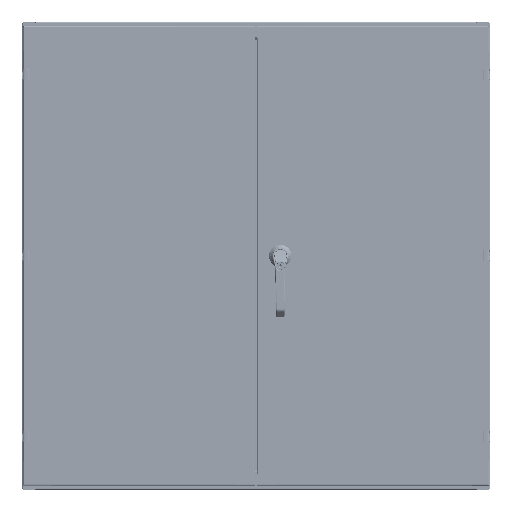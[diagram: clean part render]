
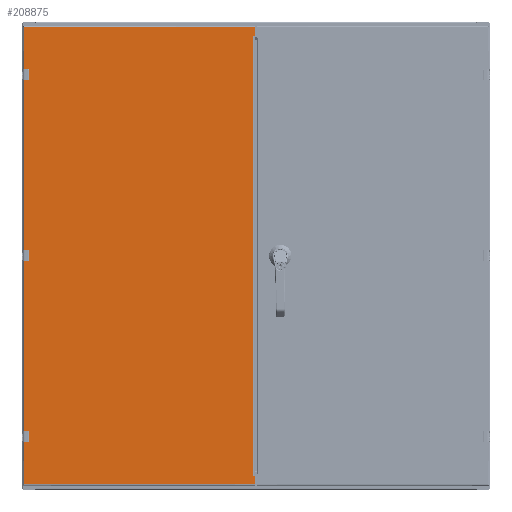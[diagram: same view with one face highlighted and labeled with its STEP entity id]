
A CAD part, top view. The second image highlights one B-rep face of the part: STEP entity #208875.
In plain terms, the highlighted planar face has unit normal (0, 0, 1) as drawn and (0, 1, 0) by its records, which use the part's own axes.
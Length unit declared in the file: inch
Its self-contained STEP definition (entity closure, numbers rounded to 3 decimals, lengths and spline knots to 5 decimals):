
#203909=DIRECTION('',(0.,0.,1.));
#203910=VECTOR('',#203909,20.68);
#203911=CARTESIAN_POINT('',(41.133,0.825,0.135));
#203912=LINE('',#203911,#203910);
#204226=DIRECTION('',(1.,0.,0.));
#204227=VECTOR('',#204226,39.437);
#204228=CARTESIAN_POINT('',(0.9065,0.825,0.252));
#204229=LINE('',#204228,#204227);
#204241=DIRECTION('',(0.,0.,-1.));
#204242=VECTOR('',#204241,0.3629);
#204243=CARTESIAN_POINT('',(37.22,0.825,20.815));
#204244=LINE('',#204243,#204242);
#204248=DIRECTION('',(-1.,0.,0.));
#204249=VECTOR('',#204248,0.63);
#204250=CARTESIAN_POINT('',(37.19,0.825,20.4221));
#204251=LINE('',#204250,#204249);
#204255=DIRECTION('',(0.,0.,-1.));
#204256=VECTOR('',#204255,0.3629);
#204257=CARTESIAN_POINT('',(36.53,0.825,20.815));
#204258=LINE('',#204257,#204256);
#204262=DIRECTION('',(0.,0.,-1.));
#204263=VECTOR('',#204262,0.3629);
#204264=CARTESIAN_POINT('',(20.97,0.825,20.815));
#204265=LINE('',#204264,#204263);
#204269=DIRECTION('',(-1.,0.,0.));
#204270=VECTOR('',#204269,0.63);
#204271=CARTESIAN_POINT('',(20.94,0.825,20.4221));
#204272=LINE('',#204271,#204270);
#204276=DIRECTION('',(0.,0.,-1.));
#204277=VECTOR('',#204276,0.3629);
#204278=CARTESIAN_POINT('',(20.28,0.825,20.815));
#204279=LINE('',#204278,#204277);
#204283=DIRECTION('',(0.,0.,-1.));
#204284=VECTOR('',#204283,0.3629);
#204285=CARTESIAN_POINT('',(4.72,0.825,20.815));
#204286=LINE('',#204285,#204284);
#204290=DIRECTION('',(-1.,0.,0.));
#204291=VECTOR('',#204290,0.63);
#204292=CARTESIAN_POINT('',(4.69,0.825,20.4221));
#204293=LINE('',#204292,#204291);
#204297=DIRECTION('',(0.,0.,-1.));
#204298=VECTOR('',#204297,0.3629);
#204299=CARTESIAN_POINT('',(4.03,0.825,20.815));
#204300=LINE('',#204299,#204298);
#204304=DIRECTION('',(-1.,0.,0.));
#204305=VECTOR('',#204304,0.73132);
#204306=CARTESIAN_POINT('',(0.84832,0.825,0.135));
#204307=LINE('',#204306,#204305);
#204311=DIRECTION('',(0.342,0.,0.94));
#204312=VECTOR('',#204311,0.12451);
#204313=CARTESIAN_POINT('',(0.84832,0.825,0.135));
#204314=LINE('',#204313,#204312);
#204318=DIRECTION('',(-1.,0.,0.));
#204319=VECTOR('',#204318,0.0156);
#204320=CARTESIAN_POINT('',(0.9065,0.825,0.252));
#204321=LINE('',#204320,#204319);
#204325=DIRECTION('',(1.,0.,0.));
#204326=VECTOR('',#204325,0.0156);
#204327=CARTESIAN_POINT('',(40.3435,0.825,0.252));
#204328=LINE('',#204327,#204326);
#204332=DIRECTION('',(-0.342,0.,0.94));
#204333=VECTOR('',#204332,0.12451);
#204334=CARTESIAN_POINT('',(40.40168,0.825,0.135));
#204335=LINE('',#204334,#204333);
#204339=DIRECTION('',(-1.,0.,0.));
#204340=VECTOR('',#204339,0.73132);
#204341=CARTESIAN_POINT('',(41.133,0.825,0.135));
#204342=LINE('',#204341,#204340);
#204354=DIRECTION('',(-1.,0.,0.));
#204355=VECTOR('',#204354,15.56);
#204356=CARTESIAN_POINT('',(36.53,0.825,20.815));
#204357=LINE('',#204356,#204355);
#204399=DIRECTION('',(-1.,0.,0.));
#204400=VECTOR('',#204399,15.56);
#204401=CARTESIAN_POINT('',(20.28,0.825,20.815));
#204402=LINE('',#204401,#204400);
#204442=DIRECTION('',(-1.,0.,0.));
#204443=VECTOR('',#204442,3.913);
#204444=CARTESIAN_POINT('',(4.03,0.825,20.815));
#204445=LINE('',#204444,#204443);
#204515=DIRECTION('',(-1.,0.,0.));
#204516=VECTOR('',#204515,3.913);
#204517=CARTESIAN_POINT('',(41.133,0.825,20.815));
#204518=LINE('',#204517,#204516);
#204536=CARTESIAN_POINT('',(20.94,0.825,20.4521));
#204537=DIRECTION('',(0.,-1.,0.));
#204538=DIRECTION('',(0.,0.,-1.));
#204539=AXIS2_PLACEMENT_3D('',#204536,#204537,#204538);
#204566=CARTESIAN_POINT('',(20.31,0.825,20.4521));
#204567=DIRECTION('',(0.,-1.,0.));
#204568=DIRECTION('',(-1.,0.,0.));
#204569=AXIS2_PLACEMENT_3D('',#204566,#204567,#204568);
#206308=CARTESIAN_POINT('',(37.19,0.825,20.4521));
#206309=DIRECTION('',(0.,-1.,0.));
#206310=DIRECTION('',(0.,0.,-1.));
#206311=AXIS2_PLACEMENT_3D('',#206308,#206309,#206310);
#206338=CARTESIAN_POINT('',(36.56,0.825,20.4521));
#206339=DIRECTION('',(0.,-1.,0.));
#206340=DIRECTION('',(-1.,0.,0.));
#206341=AXIS2_PLACEMENT_3D('',#206338,#206339,#206340);
#206428=CARTESIAN_POINT('',(4.06,0.825,20.4521));
#206429=DIRECTION('',(0.,-1.,0.));
#206430=DIRECTION('',(-1.,0.,0.));
#206431=AXIS2_PLACEMENT_3D('',#206428,#206429,#206430);
#206458=CARTESIAN_POINT('',(4.69,0.825,20.4521));
#206459=DIRECTION('',(0.,-1.,0.));
#206460=DIRECTION('',(0.,0.,-1.));
#206461=AXIS2_PLACEMENT_3D('',#206458,#206459,#206460);
#206474=DIRECTION('',(0.,0.,1.));
#206475=VECTOR('',#206474,20.68);
#206476=CARTESIAN_POINT('',(0.117,0.825,0.135));
#206477=LINE('',#206476,#206475);
#206643=CARTESIAN_POINT('',(40.3435,0.825,0.252));
#206644=CARTESIAN_POINT('',(40.3591,0.825,0.252));
#206645=VERTEX_POINT('',#206643);
#206646=VERTEX_POINT('',#206644);
#206647=CARTESIAN_POINT('',(40.40168,0.825,0.135));
#206648=VERTEX_POINT('',#206647);
#206655=CARTESIAN_POINT('',(41.133,0.825,0.135));
#206656=VERTEX_POINT('',#206655);
#206659=CARTESIAN_POINT('',(0.9065,0.825,0.252));
#206660=CARTESIAN_POINT('',(0.8909,0.825,0.252));
#206661=VERTEX_POINT('',#206659);
#206662=VERTEX_POINT('',#206660);
#206663=CARTESIAN_POINT('',(0.84832,0.825,0.135));
#206664=VERTEX_POINT('',#206663);
#206671=CARTESIAN_POINT('',(0.117,0.825,0.135));
#206672=VERTEX_POINT('',#206671);
#207034=CARTESIAN_POINT('',(0.117,0.825,20.815));
#207035=VERTEX_POINT('',#207034);
#207040=CARTESIAN_POINT('',(41.133,0.825,20.815));
#207042=VERTEX_POINT('',#207040);
#207095=CARTESIAN_POINT('',(4.03,0.825,20.815));
#207097=VERTEX_POINT('',#207095);
#207099=CARTESIAN_POINT('',(4.72,0.825,20.815));
#207101=VERTEX_POINT('',#207099);
#207111=CARTESIAN_POINT('',(36.53,0.825,20.815));
#207113=VERTEX_POINT('',#207111);
#207115=CARTESIAN_POINT('',(37.22,0.825,20.815));
#207117=VERTEX_POINT('',#207115);
#207127=CARTESIAN_POINT('',(20.97,0.825,20.815));
#207129=VERTEX_POINT('',#207127);
#207131=CARTESIAN_POINT('',(20.28,0.825,20.815));
#207133=VERTEX_POINT('',#207131);
#207158=CARTESIAN_POINT('',(4.03,0.825,20.4521));
#207160=VERTEX_POINT('',#207158);
#207162=CARTESIAN_POINT('',(4.06,0.825,20.4221));
#207164=VERTEX_POINT('',#207162);
#207166=CARTESIAN_POINT('',(4.69,0.825,20.4221));
#207168=VERTEX_POINT('',#207166);
#207170=CARTESIAN_POINT('',(4.72,0.825,20.4521));
#207172=VERTEX_POINT('',#207170);
#207190=CARTESIAN_POINT('',(37.19,0.825,20.4221));
#207192=VERTEX_POINT('',#207190);
#207194=CARTESIAN_POINT('',(37.22,0.825,20.4521));
#207196=VERTEX_POINT('',#207194);
#207198=CARTESIAN_POINT('',(36.53,0.825,20.4521));
#207200=VERTEX_POINT('',#207198);
#207202=CARTESIAN_POINT('',(36.56,0.825,20.4221));
#207204=VERTEX_POINT('',#207202);
#207206=CARTESIAN_POINT('',(20.28,0.825,20.4521));
#207208=VERTEX_POINT('',#207206);
#207210=CARTESIAN_POINT('',(20.31,0.825,20.4221));
#207212=VERTEX_POINT('',#207210);
#207214=CARTESIAN_POINT('',(20.94,0.825,20.4221));
#207216=VERTEX_POINT('',#207214);
#207218=CARTESIAN_POINT('',(20.97,0.825,20.4521));
#207220=VERTEX_POINT('',#207218);
#208820=CARTESIAN_POINT('',(41.25,0.825,0.));
#208821=DIRECTION('',(0.,1.,0.));
#208822=DIRECTION('',(-1.,0.,0.));
#208823=AXIS2_PLACEMENT_3D('',#208820,#208821,#208822);
#208824=PLANE('',#208823);
#208825=ORIENTED_EDGE('',*,*,#208436,.T.);
#208827=ORIENTED_EDGE('',*,*,#208826,.T.);
#208829=ORIENTED_EDGE('',*,*,#208828,.T.);
#208831=ORIENTED_EDGE('',*,*,#208830,.F.);
#208833=ORIENTED_EDGE('',*,*,#208832,.T.);
#208835=ORIENTED_EDGE('',*,*,#208834,.F.);
#208837=ORIENTED_EDGE('',*,*,#208836,.F.);
#208839=ORIENTED_EDGE('',*,*,#208838,.T.);
#208841=ORIENTED_EDGE('',*,*,#208840,.T.);
#208843=ORIENTED_EDGE('',*,*,#208842,.F.);
#208845=ORIENTED_EDGE('',*,*,#208844,.T.);
#208847=ORIENTED_EDGE('',*,*,#208846,.F.);
#208849=ORIENTED_EDGE('',*,*,#208848,.F.);
#208851=ORIENTED_EDGE('',*,*,#208850,.T.);
#208853=ORIENTED_EDGE('',*,*,#208852,.T.);
#208855=ORIENTED_EDGE('',*,*,#208854,.F.);
#208857=ORIENTED_EDGE('',*,*,#208856,.T.);
#208859=ORIENTED_EDGE('',*,*,#208858,.F.);
#208861=ORIENTED_EDGE('',*,*,#208860,.F.);
#208863=ORIENTED_EDGE('',*,*,#208862,.T.);
#208865=ORIENTED_EDGE('',*,*,#208864,.F.);
#208866=ORIENTED_EDGE('',*,*,#208647,.F.);
#208867=ORIENTED_EDGE('',*,*,#208813,.T.);
#208868=ORIENTED_EDGE('',*,*,#208811,.F.);
#208869=ORIENTED_EDGE('',*,*,#208760,.T.);
#208870=ORIENTED_EDGE('',*,*,#208741,.T.);
#208871=ORIENTED_EDGE('',*,*,#208739,.F.);
#208872=ORIENTED_EDGE('',*,*,#208635,.F.);
#208873=EDGE_LOOP('',(#208825,#208827,#208829,#208831,#208833,#208835,#208837,
#208839,#208841,#208843,#208845,#208847,#208849,#208851,#208853,#208855,#208857,
#208859,#208861,#208863,#208865,#208866,#208867,#208868,#208869,#208870,#208871,
#208872));
#208874=FACE_OUTER_BOUND('',#208873,.F.);
#204540=CIRCLE('',#204539,0.03);
#204570=CIRCLE('',#204569,0.03);
#206312=CIRCLE('',#206311,0.03);
#206342=CIRCLE('',#206341,0.03);
#206432=CIRCLE('',#206431,0.03);
#206462=CIRCLE('',#206461,0.03);
#208436=EDGE_CURVE('',#206656,#207042,#203912,.T.);
#208635=EDGE_CURVE('',#206656,#206648,#204342,.T.);
#208647=EDGE_CURVE('',#206664,#206672,#204307,.T.);
#208739=EDGE_CURVE('',#206648,#206646,#204335,.T.);
#208741=EDGE_CURVE('',#206645,#206646,#204328,.T.);
#208760=EDGE_CURVE('',#206661,#206645,#204229,.T.);
#208811=EDGE_CURVE('',#206661,#206662,#204321,.T.);
#208813=EDGE_CURVE('',#206664,#206662,#204314,.T.);
#208826=EDGE_CURVE('',#207042,#207117,#204518,.T.);
#208828=EDGE_CURVE('',#207117,#207196,#204244,.T.);
#208830=EDGE_CURVE('',#207192,#207196,#206312,.T.);
#208832=EDGE_CURVE('',#207192,#207204,#204251,.T.);
#208834=EDGE_CURVE('',#207200,#207204,#206342,.T.);
#208836=EDGE_CURVE('',#207113,#207200,#204258,.T.);
#208838=EDGE_CURVE('',#207113,#207129,#204357,.T.);
#208840=EDGE_CURVE('',#207129,#207220,#204265,.T.);
#208842=EDGE_CURVE('',#207216,#207220,#204540,.T.);
#208844=EDGE_CURVE('',#207216,#207212,#204272,.T.);
#208846=EDGE_CURVE('',#207208,#207212,#204570,.T.);
#208848=EDGE_CURVE('',#207133,#207208,#204279,.T.);
#208850=EDGE_CURVE('',#207133,#207101,#204402,.T.);
#208852=EDGE_CURVE('',#207101,#207172,#204286,.T.);
#208854=EDGE_CURVE('',#207168,#207172,#206462,.T.);
#208856=EDGE_CURVE('',#207168,#207164,#204293,.T.);
#208858=EDGE_CURVE('',#207160,#207164,#206432,.T.);
#208860=EDGE_CURVE('',#207097,#207160,#204300,.T.);
#208862=EDGE_CURVE('',#207097,#207035,#204445,.T.);
#208864=EDGE_CURVE('',#206672,#207035,#206477,.T.);
#208875=ADVANCED_FACE('',(#208874),#208824,.T.);
